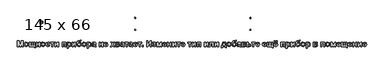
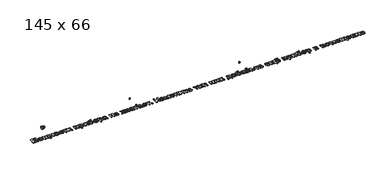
"""IFC4 building model written with IfcOpenShell, lengths in millimetres: proxy geometry, Mohlenhof_Внутрипольный конвектор_QSKM : 145 x 66."""

from ifc_helpers import new_model, si_unit, point, frame, frame_2d, origin, origin_with_axes, place, context, project, spatial, polyline, circle_curve, trimmed, segment, composite_curve, outline, extrude, source, transform, mapped, element, save
from ifc_brep_helpers import plane_surface, cylinder_surface, revolved_surface, advanced_brep


def proxy_145_x_66_f7e18ef1(model_context):
    return source(origin(), model_context, "Body", "SolidModel", [
        extrude(outline(composite_curve([segment(trimmed(circle_curve(frame_2d((-491.5, -223.5)), 4.5), [point((-496.0, -223.5))], [point((-487.0, -223.5))], False, "CARTESIAN"), True, "CONTINUOUS"), segment(trimmed(circle_curve(frame_2d((-491.5, -223.5)), 4.5), [point((-487.0, -223.5))], [point((-496.0, -223.5))], False, "CARTESIAN"), True, "CONTINUOUS")], self_intersect=False)), frame((0.0, 0.0, -79.0), z_axis=(0.0, 0.0, 1.0), x_axis=(1.0, 0.0, 0.0)), (0.0, 0.0, 1.0), 7.0),
        extrude(outline(composite_curve([segment(trimmed(circle_curve(frame_2d((-491.5, -223.5)), 4.0), [point((-495.5, -223.5))], [point((-487.5, -223.5))], False, "CARTESIAN"), True, "CONTINUOUS"), segment(trimmed(circle_curve(frame_2d((-491.5, -223.5)), 4.0), [point((-487.5, -223.5))], [point((-495.5, -223.5))], False, "CARTESIAN"), True, "CONTINUOUS")], self_intersect=False)), frame((0.0, 0.0, -72.0), z_axis=(0.0, 0.0, 1.0), x_axis=(1.0, 0.0, 0.0)), (0.0, 0.0, 1.0), 1.5),
        extrude(outline(composite_curve([segment(trimmed(circle_curve(frame_2d((491.5, -223.5)), 4.5), [point((487.0, -223.5))], [point((496.0, -223.5))], False, "CARTESIAN"), True, "CONTINUOUS"), segment(trimmed(circle_curve(frame_2d((491.5, -223.5)), 4.5), [point((496.0, -223.5))], [point((487.0, -223.5))], False, "CARTESIAN"), True, "CONTINUOUS")], self_intersect=False)), frame((0.0, 0.0, -79.0), z_axis=(0.0, 0.0, 1.0), x_axis=(1.0, 0.0, 0.0)), (0.0, 0.0, 1.0), 7.0),
        extrude(outline(composite_curve([segment(trimmed(circle_curve(frame_2d((491.5, -223.5)), 4.0), [point((487.5, -223.5))], [point((495.5, -223.5))], False, "CARTESIAN"), True, "CONTINUOUS"), segment(trimmed(circle_curve(frame_2d((491.5, -223.5)), 4.0), [point((495.5, -223.5))], [point((487.5, -223.5))], False, "CARTESIAN"), True, "CONTINUOUS")], self_intersect=False)), frame((0.0, 0.0, -72.0), z_axis=(0.0, 0.0, 1.0), x_axis=(1.0, 0.0, 0.0)), (0.0, 0.0, 1.0), 1.5),
        extrude(outline(composite_curve([segment(trimmed(circle_curve(frame_2d((-491.5, -121.5)), 4.5), [point((-496.0, -121.5))], [point((-487.0, -121.5))], False, "CARTESIAN"), True, "CONTINUOUS"), segment(trimmed(circle_curve(frame_2d((-491.5, -121.5)), 4.5), [point((-487.0, -121.5))], [point((-496.0, -121.5))], False, "CARTESIAN"), True, "CONTINUOUS")], self_intersect=False)), frame((0.0, 0.0, -79.0), z_axis=(0.0, 0.0, 1.0), x_axis=(1.0, 0.0, 0.0)), (0.0, 0.0, 1.0), 7.0),
        extrude(outline(composite_curve([segment(trimmed(circle_curve(frame_2d((-491.5, -121.5)), 4.0), [point((-495.5, -121.5))], [point((-487.5, -121.5))], False, "CARTESIAN"), True, "CONTINUOUS"), segment(trimmed(circle_curve(frame_2d((-491.5, -121.5)), 4.0), [point((-487.5, -121.5))], [point((-495.5, -121.5))], False, "CARTESIAN"), True, "CONTINUOUS")], self_intersect=False)), frame((0.0, 0.0, -72.0), z_axis=(0.0, 0.0, 1.0), x_axis=(1.0, 0.0, 0.0)), (0.0, 0.0, 1.0), 1.5),
        extrude(outline(composite_curve([segment(trimmed(circle_curve(frame_2d((491.5, -121.5)), 4.5), [point((487.0, -121.5))], [point((496.0, -121.5))], False, "CARTESIAN"), True, "CONTINUOUS"), segment(trimmed(circle_curve(frame_2d((491.5, -121.5)), 4.5), [point((496.0, -121.5))], [point((487.0, -121.5))], False, "CARTESIAN"), True, "CONTINUOUS")], self_intersect=False)), frame((0.0, 0.0, -79.0), z_axis=(0.0, 0.0, 1.0), x_axis=(1.0, 0.0, 0.0)), (0.0, 0.0, 1.0), 7.0),
        extrude(outline(composite_curve([segment(trimmed(circle_curve(frame_2d((491.5, -121.5)), 4.0), [point((487.5, -121.5))], [point((495.5, -121.5))], False, "CARTESIAN"), True, "CONTINUOUS"), segment(trimmed(circle_curve(frame_2d((491.5, -121.5)), 4.0), [point((495.5, -121.5))], [point((487.5, -121.5))], False, "CARTESIAN"), True, "CONTINUOUS")], self_intersect=False)), frame((0.0, 0.0, -72.0), z_axis=(0.0, 0.0, 1.0), x_axis=(1.0, 0.0, 0.0)), (0.0, 0.0, 1.0), 1.5),
        extrude(outline(polyline([(-1494.6416219, -365.0), (-1494.6416219, -313.98703), (-1477.9915553, -313.98703), (-1469.9448666, -348.7801023), (-1461.8981779, -313.98703), (-1445.2481113, -313.98703), (-1445.2481113, -365.0), (-1454.9648675, -365.0), (-1455.3697323, -324.8424686), (-1464.2514548, -365.0), (-1475.6256264, -365.0), (-1484.5200009, -324.8424686), (-1484.9248657, -365.0), (-1494.6416219, -365.0)])), origin_with_axes(), (0.0, 0.0, 1.0), 2.0),
        extrude(outline(polyline([(-1437.9605441, -345.8448322), (-1435.5629851, -336.3621385), (-1428.775173, -329.3592419), (-1418.9698527, -326.9427049), (-1405.2487302, -332.4210323), (-1399.9032491, -346.2750011), (-1405.3056643, -360.2618162), (-1418.8939405, -365.8097297), (-1428.5664146, -363.5007349), (-1435.5629851, -356.7255748), (-1437.9605441, -345.8448322)]), holes=[polyline([(-1428.2437879, -346.3762173), (-1425.5552324, -355.390786), (-1418.9192446, -358.5221625), (-1412.2959088, -355.390786), (-1409.6200052, -346.3003051), (-1412.2959088, -337.3616486), (-1418.9192446, -334.2302721), (-1425.5552324, -337.3616486), (-1428.2437879, -346.3762173)])]), origin_with_axes(), (0.0, 0.0, 1.0), 2.0),
        extrude(outline(polyline([(-1392.6156819, -327.7524346), (-1382.8989257, -327.7524346), (-1382.8989257, -357.7124329), (-1373.9918992, -357.7124329), (-1373.9918992, -327.7524346), (-1364.275143, -327.7524346), (-1364.275143, -357.7124329), (-1355.3681165, -357.7124329), (-1355.3681165, -327.7524346), (-1345.6513603, -327.7524346), (-1345.6513603, -357.7124329), (-1341.6027119, -357.7124329), (-1341.6027119, -374.7167562), (-1348.8902791, -374.7167562), (-1348.8902791, -365.0), (-1392.6156819, -365.0), (-1392.6156819, -327.7524346)])), origin_with_axes(), (0.0, 0.0, 1.0), 2.0),
        extrude(outline(polyline([(-1335.1248745, -327.7524346), (-1325.4081183, -327.7524346), (-1325.4081183, -341.5178392), (-1311.6427137, -341.5178392), (-1311.6427137, -327.7524346), (-1301.9259575, -327.7524346), (-1301.9259575, -365.0), (-1311.6427137, -365.0), (-1311.6427137, -348.8054063), (-1325.4081183, -348.8054063), (-1325.4081183, -365.0), (-1335.1248745, -365.0), (-1335.1248745, -327.7524346)])), origin_with_axes(), (0.0, 0.0, 1.0), 2.0),
        extrude(outline(polyline([(-1294.6383903, -345.8448322), (-1292.2408313, -336.3621385), (-1285.4530192, -329.3592419), (-1275.6476989, -326.9427049), (-1261.9265764, -332.4210323), (-1256.5810952, -346.2750011), (-1261.9835105, -360.2618162), (-1275.5717867, -365.8097297), (-1285.2442608, -363.5007349), (-1292.2408313, -356.7255748), (-1294.6383903, -345.8448322)]), holes=[polyline([(-1284.9216341, -346.3762173), (-1282.2330785, -355.390786), (-1275.5970908, -358.5221625), (-1268.973755, -355.390786), (-1266.2978514, -346.3003051), (-1268.973755, -337.3616486), (-1275.5970908, -334.2302721), (-1282.2330785, -337.3616486), (-1284.9216341, -346.3762173)])]), origin_with_axes(), (0.0, 0.0, 1.0), 2.0),
        extrude(outline(polyline([(-1218.5238002, -338.2789205), (-1228.2405564, -339.8983798), (-1230.3091627, -335.653625), (-1234.5033094, -334.2302721), (-1239.9689847, -336.8998496), (-1242.005961, -345.8195281), (-1239.8867466, -355.6501526), (-1234.1996607, -358.5221625), (-1229.8283857, -356.8837251), (-1227.4308267, -351.2345954), (-1217.7140705, -352.8540548), (-1223.3125921, -362.5391809), (-1234.4147452, -365.8097297), (-1247.0224894, -360.660355), (-1251.7227172, -346.4141734), (-1247.0541195, -332.0731016), (-1234.4147452, -326.9427049), (-1224.0527357, -329.7451287), (-1218.5238002, -338.2789205)])), origin_with_axes(), (0.0, 0.0, 1.0), 2.0),
        extrude(outline(polyline([(-1214.4751518, -327.7524346), (-1182.0859645, -327.7524346), (-1182.0859645, -335.0400017), (-1193.42218, -335.0400017), (-1193.42218, -365.0), (-1203.1389362, -365.0), (-1203.1389362, -335.0400017), (-1214.4751518, -335.0400017), (-1214.4751518, -327.7524346)])), origin_with_axes(), (0.0, 0.0, 1.0), 2.0),
        extrude(outline(polyline([(-1177.2275864, -327.7524346), (-1167.5108302, -327.7524346), (-1167.5108302, -350.6652542), (-1153.7454256, -327.7524346), (-1144.0286694, -327.7524346), (-1144.0286694, -365.0), (-1153.7454256, -365.0), (-1153.7454256, -342.0745284), (-1167.5108302, -365.0), (-1177.2275864, -365.0), (-1177.2275864, -327.7524346)])), origin_with_axes(), (0.0, 0.0, 1.0), 2.0),
        extrude(outline(polyline([(-1114.8784008, -327.7524346), (-1081.6794838, -327.7524346), (-1081.6794838, -365.0), (-1091.39624, -365.0), (-1091.39624, -335.0400017), (-1105.1616446, -335.0400017), (-1105.1616446, -365.0), (-1114.8784008, -365.0), (-1114.8784008, -327.7524346)])), origin_with_axes(), (0.0, 0.0, 1.0), 2.0),
        extrude(outline(polyline([(-1071.9627276, -327.7524346), (-1062.2459714, -327.7524346), (-1062.2459714, -333.1168938), (-1057.6279819, -328.6507285), (-1051.1627964, -326.9427049), (-1040.6552886, -332.0224935), (-1036.3346216, -346.1611329), (-1040.7944609, -360.647703), (-1051.6056173, -365.8097297), (-1057.0839447, -364.6077872), (-1062.2459714, -360.4832266), (-1062.2459714, -378.7654046), (-1071.9627276, -378.7654046), (-1071.9627276, -327.7524346)]), holes=[polyline([(-1062.2459714, -345.730964), (-1059.8104564, -355.397112), (-1053.87033, -358.5221625), (-1048.2844604, -355.6564786), (-1046.0513778, -346.249697), (-1048.3477206, -337.1908462), (-1054.0474584, -334.2302721), (-1059.9116726, -337.1339121), (-1062.2459714, -345.730964)])]), origin_with_axes(), (0.0, 0.0, 1.0), 2.0),
        extrude(outline(polyline([(-1029.0470545, -327.7524346), (-1019.3302983, -327.7524346), (-1019.3302983, -350.6652542), (-1005.5648937, -327.7524346), (-995.8481375, -327.7524346), (-995.8481375, -365.0), (-1005.5648937, -365.0), (-1005.5648937, -342.0745284), (-1019.3302983, -365.0), (-1029.0470545, -365.0), (-1029.0470545, -327.7524346)])), origin_with_axes(), (0.0, 0.0, 1.0), 2.0),
        extrude(outline(polyline([(-957.7908424, -312.3675706), (-951.3130049, -312.3675706), (-953.7168899, -319.0351885), (-963.9650312, -321.2999012), (-965.9260953, -321.2745971), (-975.0988144, -322.2741072), (-980.0710607, -326.1456273), (-982.0827329, -335.4195625), (-976.2628008, -329.6628906), (-967.7732911, -327.7524346), (-954.9441365, -333.4711505), (-949.6935456, -346.70517), (-955.1528949, -360.179578), (-961.4488595, -364.4021918), (-969.4180546, -365.8097297), (-980.0457566, -362.9820018), (-986.5931803, -355.2452877), (-988.5605703, -338.9874339), (-987.2922047, -327.5278611), (-983.4871078, -319.8196141), (-976.5221673, -315.445176), (-965.774271, -313.98703), (-960.6502003, -313.98703), (-957.7908424, -312.3675706)]), holes=[polyline([(-978.8438141, -346.7684301), (-976.0730204, -355.359156), (-969.2788823, -358.5221625), (-962.1810955, -355.2452877), (-959.4103018, -346.7937342), (-962.2190516, -338.2789205), (-969.165014, -335.0400017), (-976.0160863, -338.2219864), (-978.8438141, -346.7684301)])]), origin_with_axes(), (0.0, 0.0, 1.0), 2.0),
        extrude(outline(polyline([(-944.8351675, -345.8448322), (-942.4376085, -336.3621385), (-935.6497964, -329.3592419), (-925.844476, -326.9427049), (-912.1233535, -332.4210323), (-906.7778724, -346.2750011), (-912.1802876, -360.2618162), (-925.7685639, -365.8097297), (-935.441038, -363.5007349), (-942.4376085, -356.7255748), (-944.8351675, -345.8448322)]), holes=[polyline([(-935.1184113, -346.3762173), (-932.4298557, -355.390786), (-925.7938679, -358.5221625), (-919.1705322, -355.390786), (-916.4946286, -346.3003051), (-919.1705322, -337.3616486), (-925.7938679, -334.2302721), (-932.4298557, -337.3616486), (-935.1184113, -346.3762173)])]), origin_with_axes(), (0.0, 0.0, 1.0), 2.0),
        extrude(outline(polyline([(-899.4903053, -327.7524346), (-889.7735491, -327.7524346), (-889.7735491, -333.1168938), (-885.1555595, -328.6507285), (-878.690374, -326.9427049), (-868.1828662, -332.0224935), (-863.8621992, -346.1611329), (-868.3220385, -360.647703), (-879.133195, -365.8097297), (-884.6115223, -364.6077872), (-889.7735491, -360.4832266), (-889.7735491, -378.7654046), (-899.4903053, -378.7654046), (-899.4903053, -327.7524346)]), holes=[polyline([(-889.7735491, -345.730964), (-887.338034, -355.397112), (-881.3979077, -358.5221625), (-875.8120381, -355.6564786), (-873.5789554, -346.249697), (-875.8752982, -337.1908462), (-881.575036, -334.2302721), (-887.4392502, -337.1339121), (-889.7735491, -345.730964)])]), origin_with_axes(), (0.0, 0.0, 1.0), 2.0),
        extrude(outline(polyline([(-848.4773353, -339.0886502), (-857.3843618, -337.4691908), (-852.4943536, -329.5237183), (-842.1892782, -326.9427049), (-832.940647, -328.5052302), (-828.6642621, -332.4653144), (-827.4243635, -341.2774507), (-827.4243635, -352.7654906), (-826.9119565, -360.0024496), (-824.9951745, -365.0), (-834.7119307, -365.0), (-835.6228766, -361.9129056), (-841.1644641, -364.525549), (-847.0729603, -365.8097297), (-855.8091845, -362.6910052), (-859.0038211, -354.8151188), (-857.5804682, -349.1976192), (-853.5887539, -345.4146633), (-846.1873185, -343.1246465), (-837.1411197, -340.7081095), (-838.3493882, -335.4828227), (-842.8977917, -334.2302721), (-846.427707, -335.3056943), (-848.4773353, -339.0886502)]), holes=[polyline([(-837.1411197, -347.9956767), (-842.6194471, -349.3431175), (-847.5284333, -350.8803387), (-849.2870649, -353.9800851), (-847.876364, -357.1747217), (-844.2895146, -358.5221625), (-839.6462209, -356.9533113), (-837.4953764, -354.0433452), (-837.1411197, -349.7543083), (-837.1411197, -347.9956767)])]), origin_with_axes(), (0.0, 0.0, 1.0), 2.0),
        extrude(outline(polyline([(-798.274095, -327.7524346), (-788.5573388, -327.7524346), (-788.5573388, -341.5178392), (-774.7919342, -341.5178392), (-774.7919342, -327.7524346), (-765.075178, -327.7524346), (-765.075178, -365.0), (-774.7919342, -365.0), (-774.7919342, -348.8054063), (-788.5573388, -348.8054063), (-788.5573388, -365.0), (-798.274095, -365.0), (-798.274095, -327.7524346)])), origin_with_axes(), (0.0, 0.0, 1.0), 2.0),
        extrude(outline(polyline([(-734.30545, -353.6637844), (-724.5886938, -355.2832438), (-730.3833219, -363.1211741), (-740.2898585, -365.8097297), (-748.4788825, -364.2250634), (-754.2197394, -359.4710645), (-757.7876108, -346.6545619), (-753.055753, -332.1806438), (-741.0869361, -326.9427049), (-728.2704335, -332.3198161), (-723.7789642, -348.8054063), (-748.0708546, -348.8054063), (-745.7808379, -355.9664532), (-740.3278145, -358.5221625), (-736.5954668, -357.3708281), (-734.30545, -353.6637844)]), holes=[polyline([(-733.4957203, -343.1372986), (-735.6592168, -336.5013108), (-740.6694193, -334.2302721), (-745.8820541, -336.621505), (-747.9063783, -343.1372986), (-733.4957203, -343.1372986)])]), origin_with_axes(), (0.0, 0.0, 1.0), 2.0),
        extrude(outline(polyline([(-701.5113979, -365.0), (-688.3532906, -345.8195281), (-699.8919385, -327.7524346), (-688.3406385, -327.7524346), (-682.7231389, -337.9879239), (-676.6248622, -327.7524346), (-665.0735622, -327.7524346), (-676.9538149, -345.3893593), (-663.4541028, -365.0), (-675.0054028, -365.0), (-682.7231389, -353.461352), (-689.9600979, -365.0), (-701.5113979, -365.0)])), origin_with_axes(), (0.0, 0.0, 1.0), 2.0),
        extrude(outline(polyline([(-658.1908599, -327.7524346), (-637.1125841, -327.7524346), (-627.4021539, -330.1942757), (-624.1822132, -337.545103), (-625.9534969, -343.0297563), (-630.4070101, -346.1358288), (-624.5048399, -349.6467661), (-622.5627538, -355.2832438), (-625.7131084, -362.3051184), (-635.0249997, -365.0), (-658.1908599, -365.0), (-658.1908599, -327.7524346)]), holes=[polyline([(-648.4741037, -343.1372986), (-642.3252189, -343.1372986), (-635.8853375, -342.0112682), (-633.8989694, -338.4560488), (-635.7524913, -335.2044781), (-642.3252189, -334.2302721), (-648.4741037, -334.2302721), (-648.4741037, -343.1372986)]), polyline([(-648.4741037, -358.5221625), (-640.5159792, -358.5221625), (-634.2532261, -357.5669346), (-632.27951, -354.1319094), (-634.5378967, -350.5893421), (-643.312077, -349.615136), (-648.4741037, -349.615136), (-648.4741037, -358.5221625)])]), origin_with_axes(), (0.0, 0.0, 1.0), 2.0),
        extrude(outline(polyline([(-607.1778899, -339.0886502), (-616.0849164, -337.4691908), (-611.1949082, -329.5237183), (-600.8898328, -326.9427049), (-591.6412016, -328.5052302), (-587.3648167, -332.4653144), (-586.1249181, -341.2774507), (-586.1249181, -352.7654906), (-585.6125111, -360.0024496), (-583.6957291, -365.0), (-593.4124853, -365.0), (-594.3234312, -361.9129056), (-599.8650187, -364.525549), (-605.773515, -365.8097297), (-614.5097391, -362.6910052), (-617.7043758, -354.8151188), (-616.2810228, -349.1976192), (-612.2893085, -345.4146633), (-604.8878731, -343.1246465), (-595.8416743, -340.7081095), (-597.0499428, -335.4828227), (-601.5983463, -334.2302721), (-605.1282616, -335.3056943), (-607.1778899, -339.0886502)]), holes=[polyline([(-595.8416743, -347.9956767), (-601.3200017, -349.3431175), (-606.2289879, -350.8803387), (-607.9876196, -353.9800851), (-606.5769186, -357.1747217), (-602.9900692, -358.5221625), (-598.3467755, -356.9533113), (-596.1959311, -354.0433452), (-595.8416743, -349.7543083), (-595.8416743, -347.9956767)])]), origin_with_axes(), (0.0, 0.0, 1.0), 2.0),
        extrude(outline(polyline([(-580.4568104, -327.7524346), (-548.0676231, -327.7524346), (-548.0676231, -335.0400017), (-559.4038386, -335.0400017), (-559.4038386, -365.0), (-569.1205948, -365.0), (-569.1205948, -335.0400017), (-580.4568104, -335.0400017), (-580.4568104, -327.7524346)])), origin_with_axes(), (0.0, 0.0, 1.0), 2.0),
        extrude(outline(polyline([(-535.1119481, -339.0886502), (-544.0189746, -337.4691908), (-539.1289665, -329.5237183), (-528.8238911, -326.9427049), (-519.5752599, -328.5052302), (-515.298875, -332.4653144), (-514.0589764, -341.2774507), (-514.0589764, -352.7654906), (-513.5465693, -360.0024496), (-511.6297873, -365.0), (-521.3465435, -365.0), (-522.2574894, -361.9129056), (-527.7990769, -364.525549), (-533.7075732, -365.8097297), (-542.4437974, -362.6910052), (-545.638434, -354.8151188), (-544.2150811, -349.1976192), (-540.2233668, -345.4146633), (-532.8219314, -343.1246465), (-523.7757326, -340.7081095), (-524.9840011, -335.4828227), (-529.5324045, -334.2302721), (-533.0623199, -335.3056943), (-535.1119481, -339.0886502)]), holes=[polyline([(-523.7757326, -347.9956767), (-529.25406, -349.3431175), (-534.1630462, -350.8803387), (-535.9216778, -353.9800851), (-534.5109769, -357.1747217), (-530.9241274, -358.5221625), (-526.2808338, -356.9533113), (-524.1299893, -354.0433452), (-523.7757326, -349.7543083), (-523.7757326, -347.9956767)])]), origin_with_axes(), (0.0, 0.0, 1.0), 2.0),
        extrude(outline(polyline([(-483.2892485, -353.6637844), (-473.5724923, -355.2832438), (-479.3671203, -363.1211741), (-489.2736569, -365.8097297), (-497.4626809, -364.2250634), (-503.2035378, -359.4710645), (-506.7714092, -346.6545619), (-502.0395514, -332.1806438), (-490.0707345, -326.9427049), (-477.2542319, -332.3198161), (-472.7627626, -348.8054063), (-497.0546531, -348.8054063), (-494.7646363, -355.9664532), (-489.311613, -358.5221625), (-485.5792652, -357.3708281), (-483.2892485, -353.6637844)]), holes=[polyline([(-482.4795188, -343.1372986), (-484.6430153, -336.5013108), (-489.6532177, -334.2302721), (-494.8658525, -336.621505), (-496.8901767, -343.1372986), (-482.4795188, -343.1372986)])]), origin_with_axes(), (0.0, 0.0, 1.0), 2.0),
        extrude(outline(polyline([(-469.5238439, -327.7524346), (-437.1346566, -327.7524346), (-437.1346566, -335.0400017), (-448.4708721, -335.0400017), (-448.4708721, -365.0), (-458.1876283, -365.0), (-458.1876283, -335.0400017), (-469.5238439, -335.0400017), (-469.5238439, -327.7524346)])), origin_with_axes(), (0.0, 0.0, 1.0), 2.0),
        extrude(outline(polyline([(-432.2762785, -365.0), (-432.2762785, -355.2832438), (-422.5595223, -355.2832438), (-422.5595223, -365.0), (-432.2762785, -365.0)])), origin_with_axes(), (0.0, 0.0, 1.0), 2.0),
        extrude(outline(polyline([(-393.4092537, -313.98703), (-383.6924975, -313.98703), (-383.6924975, -348.3246294), (-362.6395258, -313.98703), (-352.1130399, -313.98703), (-352.1130399, -365.0), (-361.8297961, -365.0), (-361.8297961, -330.6624007), (-382.8827678, -365.0), (-393.4092537, -365.0), (-393.4092537, -313.98703)])), origin_with_axes(), (0.0, 0.0, 1.0), 2.0),
        extrude(outline(polyline([(-331.0980242, -349.615136), (-331.8697978, -343.1372986), (-328.4031426, -342.8020199), (-326.3598404, -341.1699085), (-325.3919604, -338.2030083), (-326.5685988, -334.9261335), (-330.1111662, -333.4205424), (-333.3374329, -334.2682281), (-335.9184462, -338.2789205), (-344.8254727, -336.6594611), (-339.5369258, -329.371894), (-330.3135986, -326.9427049), (-320.1034134, -330.0044953), (-316.4849339, -337.6969273), (-318.0474591, -342.4793932), (-322.9880754, -346.0093085), (-316.8897987, -349.4253556), (-314.8654745, -355.1314195), (-318.8698408, -362.6593751), (-330.4021628, -365.8097297), (-340.9666047, -363.1781082), (-346.4449321, -355.2832438), (-337.5379056, -353.6637844), (-330.528683, -359.3318922), (-326.2080161, -357.8516051), (-324.5822307, -354.3722979), (-326.17006, -350.8803387), (-331.0980242, -349.615136)])), origin_with_axes(), (0.0, 0.0, 1.0), 2.0),
        extrude(outline(polyline([(-307.5779074, -327.7524346), (-296.4567762, -327.7524346), (-286.1200708, -353.7017405), (-275.6821491, -327.7524346), (-264.6622342, -327.7524346), (-264.6622342, -365.0), (-272.759531, -365.0), (-272.759531, -340.4803731), (-282.6281115, -365.0), (-289.7132462, -365.0), (-299.4806105, -340.4803731), (-299.4806105, -365.0), (-307.5779074, -365.0), (-307.5779074, -327.7524346)])), origin_with_axes(), (0.0, 0.0, 1.0), 2.0),
        extrude(outline(polyline([(-234.7022359, -353.6637844), (-224.9854797, -355.2832438), (-230.7801078, -363.1211741), (-240.6866444, -365.8097297), (-248.8756684, -364.2250634), (-254.6165253, -359.4710645), (-258.1843967, -346.6545619), (-253.4525389, -332.1806438), (-241.483722, -326.9427049), (-228.6672194, -332.3198161), (-224.1757501, -348.8054063), (-248.4676405, -348.8054063), (-246.1776238, -355.9664532), (-240.7246004, -358.5221625), (-236.9922527, -357.3708281), (-234.7022359, -353.6637844)]), holes=[polyline([(-233.8925062, -343.1372986), (-236.0560027, -336.5013108), (-241.0662051, -334.2302721), (-246.27884, -336.621505), (-248.3031642, -343.1372986), (-233.8925062, -343.1372986)])]), origin_with_axes(), (0.0, 0.0, 1.0), 2.0),
        extrude(outline(polyline([(-216.8881829, -327.7524346), (-207.1714267, -327.7524346), (-207.1714267, -341.5178392), (-193.4060221, -341.5178392), (-193.4060221, -327.7524346), (-183.6892659, -327.7524346), (-183.6892659, -365.0), (-193.4060221, -365.0), (-193.4060221, -348.8054063), (-207.1714267, -348.8054063), (-207.1714267, -365.0), (-216.8881829, -365.0), (-216.8881829, -327.7524346)])), origin_with_axes(), (0.0, 0.0, 1.0), 2.0),
        extrude(outline(polyline([(-173.9725097, -327.7524346), (-164.2557535, -327.7524346), (-164.2557535, -350.6652542), (-150.4903489, -327.7524346), (-140.7735928, -327.7524346), (-140.7735928, -365.0), (-150.4903489, -365.0), (-150.4903489, -342.0745284), (-164.2557535, -365.0), (-173.9725097, -365.0), (-173.9725097, -327.7524346)])), origin_with_axes(), (0.0, 0.0, 1.0), 2.0),
        extrude(outline(polyline([(-135.105485, -327.7524346), (-102.7162977, -327.7524346), (-102.7162977, -335.0400017), (-114.0525132, -335.0400017), (-114.0525132, -365.0), (-123.7692694, -365.0), (-123.7692694, -335.0400017), (-135.105485, -335.0400017), (-135.105485, -327.7524346)])), origin_with_axes(), (0.0, 0.0, 1.0), 2.0),
        extrude(outline(polyline([(-76.8049478, -353.6637844), (-67.0881916, -355.2832438), (-72.8828197, -363.1211741), (-82.7893563, -365.8097297), (-90.9783803, -364.2250634), (-96.7192372, -359.4710645), (-100.2871086, -346.6545619), (-95.5552508, -332.1806438), (-83.5864339, -326.9427049), (-70.7699313, -332.3198161), (-66.278462, -348.8054063), (-90.5703524, -348.8054063), (-88.2803357, -355.9664532), (-82.8273124, -358.5221625), (-79.0949646, -357.3708281), (-76.8049478, -353.6637844)]), holes=[polyline([(-75.9952182, -343.1372986), (-78.1587147, -336.5013108), (-83.1689171, -334.2302721), (-88.3815519, -336.621505), (-90.4058761, -343.1372986), (-75.9952182, -343.1372986)])]), origin_with_axes(), (0.0, 0.0, 1.0), 2.0),
        extrude(outline(polyline([(-43.6060309, -327.7524346), (-11.2168436, -327.7524346), (-11.2168436, -335.0400017), (-22.5530591, -335.0400017), (-22.5530591, -365.0), (-32.2698153, -365.0), (-32.2698153, -335.0400017), (-43.6060309, -335.0400017), (-43.6060309, -327.7524346)])), origin_with_axes(), (0.0, 0.0, 1.0), 2.0),
        extrude(outline(polyline([(-6.3584655, -327.7524346), (3.3582907, -327.7524346), (3.3582907, -350.6652542), (17.1236953, -327.7524346), (26.8404515, -327.7524346), (26.8404515, -365.0), (17.1236953, -365.0), (17.1236953, -342.0745284), (3.3582907, -365.0), (-6.3584655, -365.0), (-6.3584655, -327.7524346)])), origin_with_axes(), (0.0, 0.0, 1.0), 2.0),
        extrude(outline(polyline([(36.5572077, -327.7524346), (69.7561247, -327.7524346), (69.7561247, -365.0), (60.0393685, -365.0), (60.0393685, -335.0400017), (46.2739639, -335.0400017), (46.2739639, -365.0), (36.5572077, -365.0), (36.5572077, -327.7524346)])), origin_with_axes(), (0.0, 0.0, 1.0), 2.0),
        extrude(outline(polyline([(98.9063933, -327.7524346), (108.6231495, -327.7524346), (108.6231495, -350.6652542), (122.3885541, -327.7524346), (132.1053102, -327.7524346), (132.1053102, -365.0), (122.3885541, -365.0), (122.3885541, -342.0745284), (108.6231495, -365.0), (98.9063933, -365.0), (98.9063933, -327.7524346)])), origin_with_axes(), (0.0, 0.0, 1.0), 2.0),
        extrude(outline(polyline([(144.2512555, -327.7524346), (176.6404428, -327.7524346), (176.6404428, -365.0), (166.9236866, -365.0), (166.9236866, -335.0400017), (153.9680117, -335.0400017), (153.9680117, -352.2720616), (152.5383327, -361.4953887), (149.3753261, -364.981022), (143.7957825, -365.8097297), (137.773418, -365.2150844), (137.773418, -358.3450342), (141.5310698, -358.5221625), (143.8274126, -357.1810478), (144.2512555, -349.7163522), (144.2512555, -327.7524346)])), origin_with_axes(), (0.0, 0.0, 1.0), 2.0),
        extrude(outline(polyline([(186.357199, -327.7524346), (196.0739552, -327.7524346), (196.0739552, -350.6652542), (209.8393598, -327.7524346), (219.556116, -327.7524346), (219.556116, -365.0), (209.8393598, -365.0), (209.8393598, -342.0745284), (196.0739552, -365.0), (186.357199, -365.0), (186.357199, -327.7524346)])), origin_with_axes(), (0.0, 0.0, 1.0), 2.0),
        extrude(outline(polyline([(279.4761125, -365.0), (251.1355736, -365.0), (251.1355736, -374.7167562), (243.8480064, -374.7167562), (243.8480064, -357.7124329), (247.8966548, -357.7124329), (251.7491969, -348.7105162), (253.5647626, -327.7524346), (282.7150312, -327.7524346), (282.7150312, -357.7124329), (286.7636796, -357.7124329), (286.7636796, -374.7167562), (279.4761125, -374.7167562), (279.4761125, -365.0)]), holes=[polyline([(272.998275, -357.7124329), (272.998275, -335.0400017), (261.6620594, -335.0400017), (257.613411, -357.7124329), (272.998275, -357.7124329)])]), origin_with_axes(), (0.0, 0.0, 1.0), 2.0),
        extrude(outline(polyline([(290.812328, -345.8448322), (293.209887, -336.3621385), (299.9976991, -329.3592419), (309.8030195, -326.9427049), (323.524142, -332.4210323), (328.8696231, -346.2750011), (323.4672079, -360.2618162), (309.8789316, -365.8097297), (300.2064575, -363.5007349), (293.209887, -356.7255748), (290.812328, -345.8448322)]), holes=[polyline([(300.5290842, -346.3762173), (303.2176398, -355.390786), (309.8536276, -358.5221625), (316.4769633, -355.390786), (319.1528669, -346.3003051), (316.4769633, -337.3616486), (309.8536276, -334.2302721), (303.2176398, -337.3616486), (300.5290842, -346.3762173)])]), origin_with_axes(), (0.0, 0.0, 1.0), 2.0),
        extrude(outline(polyline([(364.4977291, -312.3675706), (370.9755666, -312.3675706), (368.5716816, -319.0351885), (358.3235403, -321.2999012), (356.3624762, -321.2745971), (347.1897572, -322.2741072), (342.2175108, -326.1456273), (340.2058387, -335.4195625), (346.0257707, -329.6628906), (354.5152804, -327.7524346), (367.344435, -333.4711505), (372.595026, -346.70517), (367.1356766, -360.179578), (360.839712, -364.4021918), (352.870517, -365.8097297), (342.2428149, -362.9820018), (335.6953913, -355.2452877), (333.7280012, -338.9874339), (334.9963668, -327.5278611), (338.8014637, -319.8196141), (345.7664042, -315.445176), (356.5143005, -313.98703), (361.6383712, -313.98703), (364.4977291, -312.3675706)]), holes=[polyline([(343.4447574, -346.7684301), (346.2155511, -355.359156), (353.0096893, -358.5221625), (360.107476, -355.2452877), (362.8782698, -346.7937342), (360.0695199, -338.2789205), (353.1235575, -335.0400017), (346.2724853, -338.2219864), (343.4447574, -346.7684301)])]), origin_with_axes(), (0.0, 0.0, 1.0), 2.0),
        extrude(outline(polyline([(387.9798899, -339.0886502), (379.0728634, -337.4691908), (383.9628716, -329.5237183), (394.267947, -326.9427049), (403.5165782, -328.5052302), (407.7929631, -332.4653144), (409.0328617, -341.2774507), (409.0328617, -352.7654906), (409.5452687, -360.0024496), (411.4620507, -365.0), (401.7452945, -365.0), (400.8343486, -361.9129056), (395.2927611, -364.525549), (389.3842648, -365.8097297), (380.6480407, -362.6910052), (377.453404, -354.8151188), (378.876757, -349.1976192), (382.8684713, -345.4146633), (390.2699067, -343.1246465), (399.3161055, -340.7081095), (398.107837, -335.4828227), (393.5594335, -334.2302721), (390.0295182, -335.3056943), (387.9798899, -339.0886502)]), holes=[polyline([(399.3161055, -347.9956767), (393.8377781, -349.3431175), (388.9287919, -350.8803387), (387.1701602, -353.9800851), (388.5808612, -357.1747217), (392.1677106, -358.5221625), (396.8110043, -356.9533113), (398.9618487, -354.0433452), (399.3161055, -349.7543083), (399.3161055, -347.9956767)])]), origin_with_axes(), (0.0, 0.0, 1.0), 2.0),
        extrude(outline(polyline([(418.7496179, -327.7524346), (439.8278937, -327.7524346), (449.5383238, -330.1942757), (452.7582645, -337.545103), (450.9869808, -343.0297563), (446.5334676, -346.1358288), (452.4356379, -349.6467661), (454.3777239, -355.2832438), (451.2273693, -362.3051184), (441.915478, -365.0), (418.7496179, -365.0), (418.7496179, -327.7524346)]), holes=[polyline([(428.466374, -343.1372986), (434.6152588, -343.1372986), (441.0551402, -342.0112682), (443.0415083, -338.4560488), (441.1879865, -335.2044781), (434.6152588, -334.2302721), (428.466374, -334.2302721), (428.466374, -343.1372986)]), polyline([(428.466374, -358.5221625), (436.4244986, -358.5221625), (442.6872516, -357.5669346), (444.6609677, -354.1319094), (442.402581, -350.5893421), (433.6284008, -349.615136), (428.466374, -349.615136), (428.466374, -358.5221625)])]), origin_with_axes(), (0.0, 0.0, 1.0), 2.0),
        extrude(outline(polyline([(461.665291, -327.7524346), (471.3820472, -327.7524346), (471.3820472, -343.1372986), (481.2000196, -343.1372986), (490.0817421, -343.9849843), (495.2374428, -347.6287679), (497.2933971, -354.1192574), (493.6243094, -362.2734883), (482.6296986, -365.0), (461.665291, -365.0), (461.665291, -327.7524346)]), holes=[polyline([(471.3820472, -358.5221625), (480.7318946, -358.5221625), (486.3430683, -357.2000258), (487.5766409, -354.0686493), (485.4511005, -350.570364), (477.9104928, -349.615136), (471.3820472, -349.615136), (471.3820472, -358.5221625)])]), origin_with_axes(), (0.0, 0.0, 1.0), 2.0),
        extrude(outline(polyline([(500.5323158, -327.7524346), (532.9215031, -327.7524346), (532.9215031, -335.0400017), (521.5852875, -335.0400017), (521.5852875, -365.0), (511.8685313, -365.0), (511.8685313, -335.0400017), (500.5323158, -335.0400017), (500.5323158, -327.7524346)])), origin_with_axes(), (0.0, 0.0, 1.0), 2.0),
        extrude(outline(polyline([(558.8328529, -353.6637844), (568.5496091, -355.2832438), (562.7549811, -363.1211741), (552.8484445, -365.8097297), (544.6594205, -364.2250634), (538.9185635, -359.4710645), (535.3506921, -346.6545619), (540.08255, -332.1806438), (552.0513668, -326.9427049), (564.8678695, -332.3198161), (569.3593388, -348.8054063), (545.0674483, -348.8054063), (547.3574651, -355.9664532), (552.8104884, -358.5221625), (556.5428362, -357.3708281), (558.8328529, -353.6637844)]), holes=[polyline([(559.6425826, -343.1372986), (557.4790861, -336.5013108), (552.4688837, -334.2302721), (547.2562489, -336.621505), (545.2319247, -343.1372986), (559.6425826, -343.1372986)])]), origin_with_axes(), (0.0, 0.0, 1.0), 2.0),
        extrude(outline(polyline([(617.1333901, -353.6637844), (626.8501463, -355.2832438), (621.0555182, -363.1211741), (611.1489816, -365.8097297), (602.9599576, -364.2250634), (597.2191007, -359.4710645), (593.6512293, -346.6545619), (598.3830871, -332.1806438), (610.351904, -326.9427049), (623.1684066, -332.3198161), (627.6598759, -348.8054063), (603.3679855, -348.8054063), (605.6580022, -355.9664532), (611.1110256, -358.5221625), (614.8433733, -357.3708281), (617.1333901, -353.6637844)]), holes=[polyline([(617.9431198, -343.1372986), (615.7796233, -336.5013108), (610.7694208, -334.2302721), (605.556786, -336.621505), (603.5324618, -343.1372986), (617.9431198, -343.1372986)])]), origin_with_axes(), (0.0, 0.0, 1.0), 2.0),
        extrude(outline(polyline([(634.9474431, -327.7524346), (644.6641993, -327.7524346), (644.6641993, -357.7124329), (653.5712258, -357.7124329), (653.5712258, -327.7524346), (663.287982, -327.7524346), (663.287982, -357.7124329), (672.1950085, -357.7124329), (672.1950085, -327.7524346), (681.9117647, -327.7524346), (681.9117647, -357.7124329), (685.9604131, -357.7124329), (685.9604131, -374.7167562), (678.6728459, -374.7167562), (678.6728459, -365.0), (634.9474431, -365.0), (634.9474431, -327.7524346)])), origin_with_axes(), (0.0, 0.0, 1.0), 2.0),
        extrude(outline(polyline([(713.4912223, -353.6637844), (723.2079785, -355.2832438), (717.4133504, -363.1211741), (707.5068139, -365.8097297), (699.3177898, -364.2250634), (693.5769329, -359.4710645), (690.0090615, -346.6545619), (694.7409193, -332.1806438), (706.7097362, -326.9427049), (719.5262388, -332.3198161), (724.0177082, -348.8054063), (699.7258177, -348.8054063), (702.0158344, -355.9664532), (707.4688578, -358.5221625), (711.2012055, -357.3708281), (713.4912223, -353.6637844)]), holes=[polyline([(714.300952, -343.1372986), (712.1374555, -336.5013108), (707.1272531, -334.2302721), (701.9146182, -336.621505), (699.890294, -343.1372986), (714.300952, -343.1372986)])]), origin_with_axes(), (0.0, 0.0, 1.0), 2.0),
        extrude(outline(polyline([(695.6771693, -323.7037862), (695.6771693, -314.7967597), (704.5841958, -314.7967597), (704.5841958, -323.7037862), (695.6771693, -323.7037862)])), origin_with_axes(), (0.0, 0.0, 1.0), 2.0),
        extrude(outline(polyline([(710.2523036, -323.7037862), (710.2523036, -314.7967597), (719.1593301, -314.7967597), (719.1593301, -323.7037862), (710.2523036, -323.7037862)])), origin_with_axes(), (0.0, 0.0, 1.0), 2.0),
        extrude(outline(polyline([(750.7387877, -327.7524346), (783.9377047, -327.7524346), (783.9377047, -365.0), (774.2209485, -365.0), (774.2209485, -335.0400017), (760.4555439, -335.0400017), (760.4555439, -365.0), (750.7387877, -365.0), (750.7387877, -327.7524346)])), origin_with_axes(), (0.0, 0.0, 1.0), 2.0),
        extrude(outline(polyline([(793.6544609, -327.7524346), (803.371217, -327.7524346), (803.371217, -333.1168938), (807.9892066, -328.6507285), (814.4543921, -326.9427049), (824.9618999, -332.0224935), (829.2825669, -346.1611329), (824.8227276, -360.647703), (814.0115712, -365.8097297), (808.5332438, -364.6077872), (803.371217, -360.4832266), (803.371217, -378.7654046), (793.6544609, -378.7654046), (793.6544609, -327.7524346)]), holes=[polyline([(803.371217, -345.730964), (805.8067321, -355.397112), (811.7468584, -358.5221625), (817.3327281, -355.6564786), (819.5658107, -346.249697), (817.2694679, -337.1908462), (811.5697301, -334.2302721), (805.7055159, -337.1339121), (803.371217, -345.730964)])]), origin_with_axes(), (0.0, 0.0, 1.0), 2.0),
        extrude(outline(polyline([(836.570134, -327.7524346), (846.2868902, -327.7524346), (846.2868902, -350.6652542), (860.0522948, -327.7524346), (869.769051, -327.7524346), (869.769051, -365.0), (860.0522948, -365.0), (860.0522948, -342.0745284), (846.2868902, -365.0), (836.570134, -365.0), (836.570134, -327.7524346)])), origin_with_axes(), (0.0, 0.0, 1.0), 2.0),
        extrude(outline(polyline([(907.8263461, -312.3675706), (914.3041835, -312.3675706), (911.9002986, -319.0351885), (901.6521573, -321.2999012), (899.6910932, -321.2745971), (890.5183741, -322.2741072), (885.5461278, -326.1456273), (883.5344556, -335.4195625), (889.3543877, -329.6628906), (897.8438973, -327.7524346), (910.673052, -333.4711505), (915.9236429, -346.70517), (910.4642936, -360.179578), (904.168329, -364.4021918), (896.1991339, -365.8097297), (885.5714318, -362.9820018), (879.0240082, -355.2452877), (877.0566182, -338.9874339), (878.3249838, -327.5278611), (882.1300807, -319.8196141), (889.0950212, -315.445176), (899.8429175, -313.98703), (904.9669881, -313.98703), (907.8263461, -312.3675706)]), holes=[polyline([(886.7733743, -346.7684301), (889.5441681, -355.359156), (896.3383062, -358.5221625), (903.436093, -355.2452877), (906.2068867, -346.7937342), (903.3981369, -338.2789205), (896.4521745, -335.0400017), (889.6011022, -338.2219864), (886.7733743, -346.7684301)])]), origin_with_axes(), (0.0, 0.0, 1.0), 2.0),
        extrude(outline(polyline([(920.782021, -345.8448322), (923.17958, -336.3621385), (929.9673921, -329.3592419), (939.7727125, -326.9427049), (953.493835, -332.4210323), (958.8393161, -346.2750011), (953.4369009, -360.2618162), (939.8486246, -365.8097297), (930.1761505, -363.5007349), (923.17958, -356.7255748), (920.782021, -345.8448322)]), holes=[polyline([(930.4987772, -346.3762173), (933.1873328, -355.390786), (939.8233206, -358.5221625), (946.4466563, -355.390786), (949.1225599, -346.3003051), (946.4466563, -337.3616486), (939.8233206, -334.2302721), (933.1873328, -337.3616486), (930.4987772, -346.3762173)])]), origin_with_axes(), (0.0, 0.0, 1.0), 2.0),
        extrude(outline(polyline([(966.1268832, -327.7524346), (975.8436394, -327.7524346), (975.8436394, -333.1168938), (980.461629, -328.6507285), (986.9268144, -326.9427049), (997.4343223, -332.0224935), (1001.7549893, -346.1611329), (997.29515, -360.647703), (986.4839935, -365.8097297), (981.0056661, -364.6077872), (975.8436394, -360.4832266), (975.8436394, -378.7654046), (966.1268832, -378.7654046), (966.1268832, -327.7524346)]), holes=[polyline([(975.8436394, -345.730964), (978.2791545, -355.397112), (984.2192808, -358.5221625), (989.8051504, -355.6564786), (992.0382331, -346.249697), (989.7418903, -337.1908462), (984.0421525, -334.2302721), (978.1779383, -337.1339121), (975.8436394, -345.730964)])]), origin_with_axes(), (0.0, 0.0, 1.0), 2.0),
        extrude(outline(polyline([(1028.4760688, -327.7524346), (1049.5543446, -327.7524346), (1059.2647748, -330.1942757), (1062.4847154, -337.545103), (1060.7134318, -343.0297563), (1056.2599185, -346.1358288), (1062.1620888, -349.6467661), (1064.1041748, -355.2832438), (1060.9538203, -362.3051184), (1051.6419289, -365.0), (1028.4760688, -365.0), (1028.4760688, -327.7524346)]), holes=[polyline([(1038.192825, -343.1372986), (1044.3417097, -343.1372986), (1050.7815911, -342.0112682), (1052.7679593, -338.4560488), (1050.9144374, -335.2044781), (1044.3417097, -334.2302721), (1038.192825, -334.2302721), (1038.192825, -343.1372986)]), polyline([(1038.192825, -358.5221625), (1046.1509495, -358.5221625), (1052.4137025, -357.5669346), (1054.3874186, -354.1319094), (1052.1290319, -350.5893421), (1043.3548517, -349.615136), (1038.192825, -349.615136), (1038.192825, -358.5221625)])]), origin_with_axes(), (0.0, 0.0, 1.0), 2.0),
        extrude(outline(polyline([(1090.8252543, -327.7524346), (1124.0241713, -327.7524346), (1124.0241713, -365.0), (1114.3074151, -365.0), (1114.3074151, -335.0400017), (1100.5420105, -335.0400017), (1100.5420105, -365.0), (1090.8252543, -365.0), (1090.8252543, -327.7524346)])), origin_with_axes(), (0.0, 0.0, 1.0), 2.0),
        extrude(outline(polyline([(1131.3117385, -345.8448322), (1133.7092974, -336.3621385), (1140.4971095, -329.3592419), (1150.3024299, -326.9427049), (1164.0235524, -332.4210323), (1169.3690335, -346.2750011), (1163.9666183, -360.2618162), (1150.3783421, -365.8097297), (1140.705868, -363.5007349), (1133.7092974, -356.7255748), (1131.3117385, -345.8448322)]), holes=[polyline([(1141.0284947, -346.3762173), (1143.7170502, -355.390786), (1150.353038, -358.5221625), (1156.9763738, -355.390786), (1159.6522773, -346.3003051), (1156.9763738, -337.3616486), (1150.353038, -334.2302721), (1143.7170502, -337.3616486), (1141.0284947, -346.3762173)])]), origin_with_axes(), (0.0, 0.0, 1.0), 2.0),
        extrude(outline(polyline([(1176.6566007, -327.7524346), (1187.7777318, -327.7524346), (1198.1144373, -353.7017405), (1208.552359, -327.7524346), (1219.5722739, -327.7524346), (1219.5722739, -365.0), (1211.474977, -365.0), (1211.474977, -340.4803731), (1201.6063965, -365.0), (1194.5212618, -365.0), (1184.7538975, -340.4803731), (1184.7538975, -365.0), (1176.6566007, -365.0), (1176.6566007, -327.7524346)])), origin_with_axes(), (0.0, 0.0, 1.0), 2.0),
        extrude(outline(polyline([(1249.5322721, -353.6637844), (1259.2490283, -355.2832438), (1253.4544003, -363.1211741), (1243.5478637, -365.8097297), (1235.3588397, -364.2250634), (1229.6179827, -359.4710645), (1226.0501113, -346.6545619), (1230.7819691, -332.1806438), (1242.750786, -326.9427049), (1255.5672886, -332.3198161), (1260.058758, -348.8054063), (1235.7668675, -348.8054063), (1238.0568843, -355.9664532), (1243.5099076, -358.5221625), (1247.2422553, -357.3708281), (1249.5322721, -353.6637844)]), holes=[polyline([(1250.3420018, -343.1372986), (1248.1785053, -336.5013108), (1243.1683029, -334.2302721), (1237.9556681, -336.621505), (1235.9313438, -343.1372986), (1250.3420018, -343.1372986)])]), origin_with_axes(), (0.0, 0.0, 1.0), 2.0),
        extrude(outline(polyline([(1267.3463251, -327.7524346), (1277.0630813, -327.7524346), (1277.0630813, -357.7124329), (1285.9701078, -357.7124329), (1285.9701078, -327.7524346), (1295.686864, -327.7524346), (1295.686864, -357.7124329), (1304.5938905, -357.7124329), (1304.5938905, -327.7524346), (1314.3106467, -327.7524346), (1314.3106467, -357.7124329), (1318.3592951, -357.7124329), (1318.3592951, -374.7167562), (1311.071728, -374.7167562), (1311.071728, -365.0), (1267.3463251, -365.0), (1267.3463251, -327.7524346)])), origin_with_axes(), (0.0, 0.0, 1.0), 2.0),
        extrude(outline(polyline([(1345.8901043, -353.6637844), (1355.6068605, -355.2832438), (1349.8122325, -363.1211741), (1339.9056959, -365.8097297), (1331.7166719, -364.2250634), (1325.9758149, -359.4710645), (1322.4079435, -346.6545619), (1327.1398014, -332.1806438), (1339.1086182, -326.9427049), (1351.9251209, -332.3198161), (1356.4165902, -348.8054063), (1332.1246997, -348.8054063), (1334.4147165, -355.9664532), (1339.8677398, -358.5221625), (1343.6000876, -357.3708281), (1345.8901043, -353.6637844)]), holes=[polyline([(1346.699834, -343.1372986), (1344.5363375, -336.5013108), (1339.5261351, -334.2302721), (1334.3135003, -336.621505), (1332.2891761, -343.1372986), (1346.699834, -343.1372986)])]), origin_with_axes(), (0.0, 0.0, 1.0), 2.0),
        extrude(outline(polyline([(1363.7041573, -327.7524346), (1373.4209135, -327.7524346), (1373.4209135, -341.5178392), (1387.1863181, -341.5178392), (1387.1863181, -327.7524346), (1396.9030743, -327.7524346), (1396.9030743, -365.0), (1387.1863181, -365.0), (1387.1863181, -348.8054063), (1373.4209135, -348.8054063), (1373.4209135, -365.0), (1363.7041573, -365.0), (1363.7041573, -327.7524346)])), origin_with_axes(), (0.0, 0.0, 1.0), 2.0),
        extrude(outline(polyline([(1406.6198305, -327.7524346), (1416.3365867, -327.7524346), (1416.3365867, -350.6652542), (1430.1019913, -327.7524346), (1439.8187475, -327.7524346), (1439.8187475, -365.0), (1430.1019913, -365.0), (1430.1019913, -342.0745284), (1416.3365867, -365.0), (1406.6198305, -365.0), (1406.6198305, -327.7524346)])), origin_with_axes(), (0.0, 0.0, 1.0), 2.0),
        extrude(outline(polyline([(1470.5884754, -353.6637844), (1480.3052316, -355.2832438), (1474.5106036, -363.1211741), (1464.604067, -365.8097297), (1456.415043, -364.2250634), (1450.6741861, -359.4710645), (1447.1063146, -346.6545619), (1451.8381725, -332.1806438), (1463.8069893, -326.9427049), (1476.623492, -332.3198161), (1481.1149613, -348.8054063), (1456.8230708, -348.8054063), (1459.1130876, -355.9664532), (1464.5661109, -358.5221625), (1468.2984587, -357.3708281), (1470.5884754, -353.6637844)]), holes=[polyline([(1471.3982051, -343.1372986), (1469.2347086, -336.5013108), (1464.2245062, -334.2302721), (1459.0118714, -336.621505), (1456.9875472, -343.1372986), (1471.3982051, -343.1372986)])]), origin_with_axes(), (0.0, 0.0, 1.0), 2.0),
        advanced_brep(
        [(-1289.5, -158.0, -47.5), (-1289.5, -146.0, -47.5), (-1289.5, -170.0, -47.5), (-1277.0, -165.5, -47.5), (-1277.0, -150.5, -47.5), (-1277.0, -158.0, -47.5), (-1284.5, -165.5, -47.5), (-1284.5, -150.5, -47.5)],
        [
            (0, 1),
            (1, 2, circle_curve(frame((-1289.5, -158.0, -47.5), z_axis=(-1.0, 0.0, 0.0), x_axis=(0.0, 1.0, 0.0)), 12.0)),
            (2, 0),
            (2, 1, circle_curve(frame((-1289.5, -158.0, -47.5), z_axis=(-1.0, 0.0, 0.0), x_axis=(0.0, 1.0, 0.0)), 12.0)),
            (3, 4, circle_curve(frame((-1277.0, -158.0, -47.5), z_axis=(1.0, 0.0, 0.0), x_axis=(0.0, 1.0, 0.0)), 7.5)),
            (4, 5),
            (5, 3),
            (4, 3, circle_curve(frame((-1277.0, -158.0, -47.5), z_axis=(1.0, 0.0, 0.0), x_axis=(0.0, 1.0, 0.0)), 7.5)),
            (6, 7, circle_curve(frame((-1284.5, -158.0, -47.5), z_axis=(1.0, 0.0, 0.0), x_axis=(0.0, 1.0, 0.0)), 7.5)),
            (7, 4),
            (3, 6),
            (7, 6, circle_curve(frame((-1284.5, -158.0, -47.5), z_axis=(1.0, 0.0, 0.0), x_axis=(0.0, 1.0, 0.0)), 7.5)),
            (1, 7),
            (6, 2),
        ],
        [
            plane_surface(frame((-1289.5, -158.0, -47.5), z_axis=(-1.0, 0.0, 0.0), x_axis=(0.0, 1.0, 0.0))),
            plane_surface(frame((-1277.0, -158.0, -47.5), z_axis=(1.0, 0.0, 0.0), x_axis=(0.0, 1.0, 0.0))),
            cylinder_surface(frame((-1289.5, -158.0, -47.5), z_axis=(-1.0, 0.0, 0.0), x_axis=(0.0, 1.0, 0.0)), 7.5),
            revolved_surface(polyline([(-1284.5, -150.5, -47.5), (-1289.5, -146.0, -47.5)]), (-1289.5, -158.0, -47.5), (-1.0, 0.0, 0.0)),
        ],
        [
            (0, [[1, 2, 3]]),
            (0, [[-3, 4, -1]]),
            (1, [[5, 6, 7]]),
            (1, [[8, -7, -6]]),
            (2, [[9, 10, -5, 11]]),
            (2, [[12, -11, -8, -10]]),
            (3, [[-2, 13, -9, 14]]),
            (3, [[-4, -14, -12, -13]]),
        ],
    ),
        extrude(outline(polyline([(-158.0, -33.6435935), (-146.0, -40.5717968), (-146.0, -54.4282032), (-158.0, -61.3564065), (-170.0, -54.4282032), (-170.0, -40.5717968), (-158.0, -33.6435935)]), holes=[composite_curve([segment(trimmed(circle_curve(frame_2d((-158.0, -47.5)), 8.5), [point((-149.5, -47.5))], [point((-166.5, -47.5))], True, "CARTESIAN"), True, "CONTINUOUS"), segment(trimmed(circle_curve(frame_2d((-158.0, -47.5)), 8.5), [point((-166.5, -47.5))], [point((-149.5, -47.5))], True, "CARTESIAN"), True, "CONTINUOUS")], self_intersect=False)]), frame((-1300.5, 0.0, 0.0), z_axis=(1.0, 0.0, 0.0), x_axis=(0.0, 1.0, 0.0)), (0.0, 0.0, 1.0), 11.0),
    ])


if __name__ == "__main__":
    model = new_model("IFC4")
    model_context = context("Model", 3, world=origin())
    ifc_project = project(units=[si_unit("LENGTHUNIT", "METRE", prefix="MILLI")], contexts=[model_context])
    site = spatial("IfcSite", under=ifc_project)
    building = spatial("IfcBuilding", under=site)
    placement = place(None, origin())
    proxy_145_x_66_shape = proxy_145_x_66_f7e18ef1(model_context)
    element("IfcBuildingElementProxy", 1, Name="Mohlenhof_Внутрипольный конвектор_QSKM : 145 x 66", ObjectType="Mohlenhof_Внутрипольный конвектор_QSKM : 145 x 66", at=placement, inside=building, context=model_context, shape_type="MappedRepresentation", body=[
        mapped(proxy_145_x_66_shape, transform((0.0, 0.0, 0.0), x_axis=(1.0, 0.0, 0.0), y_axis=(0.0, 1.0, 0.0), z_axis=(0.0, 0.0, 1.0))),
    ])
    save(model, "model.ifc")
